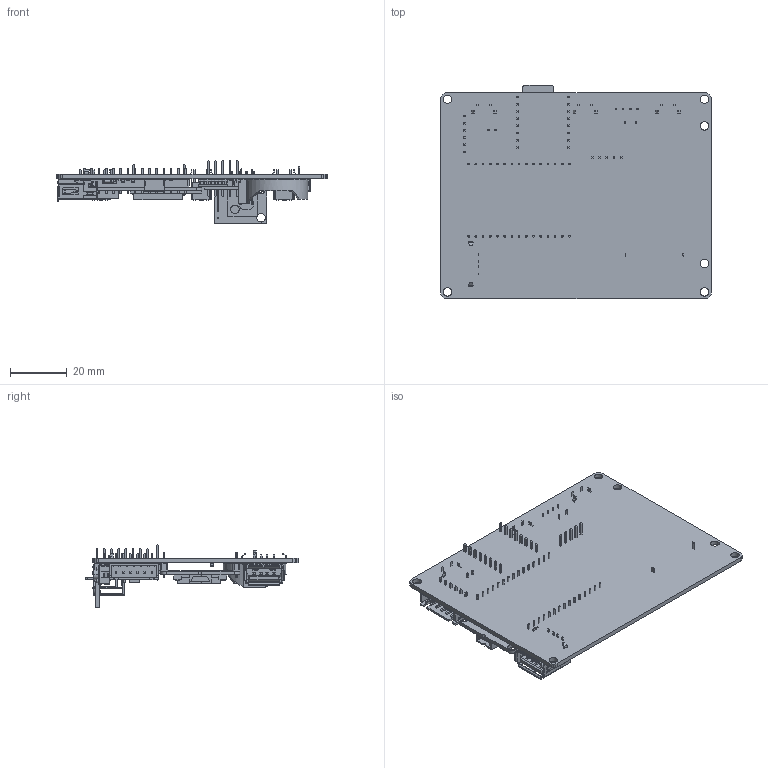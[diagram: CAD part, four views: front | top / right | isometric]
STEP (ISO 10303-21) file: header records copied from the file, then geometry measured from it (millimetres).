
FILE_DESCRIPTION(('for SolidWorks'),'2;1');
FILE_NAME('D:\Projects\Arduino\Weather-monitor-BIM32\enclosure\pcb\pcb.step' ,'2024-08-15T23:08:32',('himik'),(''), 'Open CASCADE STEP processor 6.6','DipTrace','Unknown');
FILE_SCHEMA(('AUTOMOTIVE_DESIGN { 1 0 10303 214 1 1 1 1 }'));
Length unit declared in the file: millimetre
Products named in the file (19): PCB_pcb; Board_pcb; BH-642_Battery_holder; CAP_0805_N; 293D687X9004E2TE3; PMLL4148L,115; RES_0805_N; gl5528; b3f-3_x3.85; JST_2pin; esp32; HC-12; DFPlayer; DS3231S; bh1750_90deg; max44009; WS2812B; USB_Connector_Type_A_female; JST_-_XH_-_Thru_(R)_-_6Pin_-_2.54mm
Assembly tree (33 placements, depth 2):
  PCB_pcb
    Board_pcb
    BH-642_Battery_holder
    CAP_0805_N  x6
    293D687X9004E2TE3  x2
    PMLL4148L,115
    RES_0805_N  x8
    gl5528
    b3f-3_x3.85  x3
    JST_2pin
    esp32
    HC-12
    DFPlayer
    DS3231S
    bh1750_90deg
    max44009
    WS2812B
    USB_Connector_Type_A_female
    JST_-_XH_-_Thru_(R)_-_6Pin_-_2.54mm
Bounding box: 95.41 x 75.29 x 22.2 mm (x, y, z)
Volume: 11645.7 mm3; surface area: 34838.5 mm2
Topology: 74 solids, 250 shells, 6453 faces, 16482 edges, 10552 vertices
Faces by surface type: plane 4603, cylinder 1121, bspline 539, sphere 120, revolution 32, torus 29, cone 9
Full cylindrical faces by diameter (mm): 0.36 x1, 0.4 x6, 0.42 x2, 0.5 x2, 1 x1, 1.125 x2, 1.135 x1, 1.525 x2, 3 x6
Entity records: 228844 total; most frequent: CARTESIAN_POINT 60124, ORIENTED_EDGE 28789, DIRECTION 24243, EDGE_CURVE 14397, LINE 10649, VECTOR 10649, VERTEX_POINT 9352, AXIS2_PLACEMENT_3D 6781
